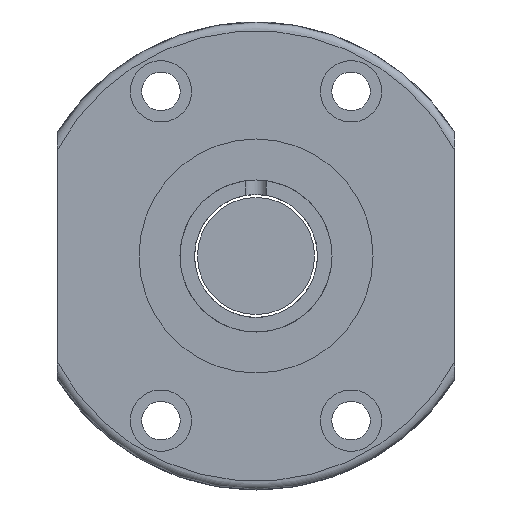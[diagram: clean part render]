
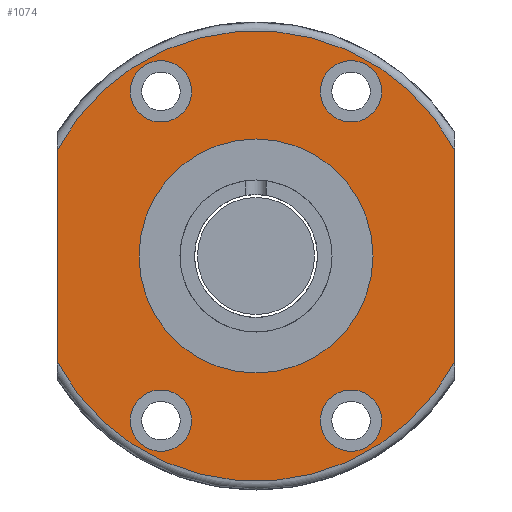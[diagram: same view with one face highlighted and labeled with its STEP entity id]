
A CAD part, left-side view. The second image highlights one B-rep face of the part: STEP entity #1074.
In plain terms, the highlighted planar face has unit normal (-1, 0, 0).
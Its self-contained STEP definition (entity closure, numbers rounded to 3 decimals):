
#3 = DIRECTION ( 'NONE',  ( 1., 0., 0. ) ) ;
#58 = FACE_BOUND ( 'NONE', #2557, .T. ) ;
#98 = DIRECTION ( 'NONE',  ( 0., 0.423, -0.906 ) ) ;
#109 = EDGE_LOOP ( 'NONE', ( #2319 ) ) ;
#111 = DIRECTION ( 'NONE',  ( -1., 0., 0. ) ) ;
#123 = VERTEX_POINT ( 'NONE', #472 ) ;
#143 = CIRCLE ( 'NONE', #2429, 38.5 ) ;
#188 = EDGE_CURVE ( 'NONE', #2036, #795, #2289, .T. ) ;
#195 = CIRCLE ( 'NONE', #518, 5.25 ) ;
#244 = DIRECTION ( 'NONE',  ( 0., -0.423, -0.906 ) ) ;
#251 = CARTESIAN_POINT ( 'NONE',  ( 147.535, 53.895, 0. ) ) ;
#258 = VECTOR ( 'NONE', #453, 1000. ) ;
#297 = VECTOR ( 'NONE', #2819, 1000. ) ;
#335 = FACE_BOUND ( 'NONE', #2151, .T. ) ;
#356 = DIRECTION ( 'NONE',  ( 0., 0.423, -0.906 ) ) ;
#380 = FACE_BOUND ( 'NONE', #1194, .T. ) ;
#420 = ORIENTED_EDGE ( 'NONE', *, *, #2837, .T. ) ;
#421 = CARTESIAN_POINT ( 'NONE',  ( 147.535, 67.895, 0. ) ) ;
#453 = DIRECTION ( 'NONE',  ( 0., 0., -1. ) ) ;
#472 = CARTESIAN_POINT ( 'NONE',  ( 147.535, 121.895, -18.062 ) ) ;
#518 = AXIS2_PLACEMENT_3D ( 'NONE', #767, #2072, #3045 ) ;
#539 = CARTESIAN_POINT ( 'NONE',  ( 147.535, 101.926, -32.904 ) ) ;
#620 = CARTESIAN_POINT ( 'NONE',  ( 147.535, 87.895, 0. ) ) ;
#625 = CIRCLE ( 'NONE', #780, 20. ) ;
#677 = AXIS2_PLACEMENT_3D ( 'NONE', #1858, #1872, #98 ) ;
#716 = ORIENTED_EDGE ( 'NONE', *, *, #3289, .T. ) ;
#767 = CARTESIAN_POINT ( 'NONE',  ( 147.535, 71.645, 28.146 ) ) ;
#779 = VERTEX_POINT ( 'NONE', #2524 ) ;
#780 = AXIS2_PLACEMENT_3D ( 'NONE', #2828, #1748, #1227 ) ;
#795 = VERTEX_POINT ( 'NONE', #1766 ) ;
#944 = DIRECTION ( 'NONE',  ( -1., 0., 0. ) ) ;
#1074 = ADVANCED_FACE ( 'NONE', ( #2621, #380, #58, #335, #1348, #2681 ), #1942, .F. ) ;
#1128 = LINE ( 'NONE', #3169, #258 ) ;
#1194 = EDGE_LOOP ( 'NONE', ( #1301 ) ) ;
#1227 = DIRECTION ( 'NONE',  ( 0., -1., 0. ) ) ;
#1296 = CARTESIAN_POINT ( 'NONE',  ( 147.535, 69.426, 23.388 ) ) ;
#1301 = ORIENTED_EDGE ( 'NONE', *, *, #3061, .T. ) ;
#1320 = ORIENTED_EDGE ( 'NONE', *, *, #1551, .F. ) ;
#1348 = FACE_BOUND ( 'NONE', #2593, .T. ) ;
#1370 = ORIENTED_EDGE ( 'NONE', *, *, #1427, .T. ) ;
#1427 = EDGE_CURVE ( 'NONE', #779, #123, #1128, .T. ) ;
#1487 = VERTEX_POINT ( 'NONE', #421 ) ;
#1518 = CARTESIAN_POINT ( 'NONE',  ( 147.535, 106.363, 23.388 ) ) ;
#1551 = EDGE_CURVE ( 'NONE', #1487, #1487, #625, .T. ) ;
#1680 = CIRCLE ( 'NONE', #677, 5.25 ) ;
#1748 = DIRECTION ( 'NONE',  ( -1., 0., 0. ) ) ;
#1762 = CARTESIAN_POINT ( 'NONE',  ( 147.535, 53.895, -18.062 ) ) ;
#1766 = CARTESIAN_POINT ( 'NONE',  ( 147.535, 53.895, 18.062 ) ) ;
#1837 = AXIS2_PLACEMENT_3D ( 'NONE', #3015, #3, #244 ) ;
#1858 = CARTESIAN_POINT ( 'NONE',  ( 147.535, 71.645, -28.146 ) ) ;
#1868 = ORIENTED_EDGE ( 'NONE', *, *, #188, .T. ) ;
#1872 = DIRECTION ( 'NONE',  ( 1., 0., 0. ) ) ;
#1942 = PLANE ( 'NONE',  #2759 ) ;
#1980 = EDGE_LOOP ( 'NONE', ( #3074, #1370, #716, #1868 ) ) ;
#2000 = CIRCLE ( 'NONE', #1837, 5.25 ) ;
#2036 = VERTEX_POINT ( 'NONE', #1762 ) ;
#2072 = DIRECTION ( 'NONE',  ( 1., 0., 0. ) ) ;
#2125 = DIRECTION ( 'NONE',  ( 1., 0., 0. ) ) ;
#2151 = EDGE_LOOP ( 'NONE', ( #420 ) ) ;
#2283 = AXIS2_PLACEMENT_3D ( 'NONE', #620, #111, #3125 ) ;
#2289 = LINE ( 'NONE', #251, #297 ) ;
#2290 = VERTEX_POINT ( 'NONE', #1296 ) ;
#2319 = ORIENTED_EDGE ( 'NONE', *, *, #2393, .T. ) ;
#2360 = CARTESIAN_POINT ( 'NONE',  ( 147.535, 104.145, 28.146 ) ) ;
#2393 = EDGE_CURVE ( 'NONE', #2290, #2290, #195, .T. ) ;
#2429 = AXIS2_PLACEMENT_3D ( 'NONE', #2474, #944, #2754 ) ;
#2468 = CARTESIAN_POINT ( 'NONE',  ( 147.535, 126.395, 0. ) ) ;
#2474 = CARTESIAN_POINT ( 'NONE',  ( 147.535, 87.895, 0. ) ) ;
#2524 = CARTESIAN_POINT ( 'NONE',  ( 147.535, 121.895, 18.062 ) ) ;
#2557 = EDGE_LOOP ( 'NONE', ( #1320 ) ) ;
#2572 = VERTEX_POINT ( 'NONE', #1518 ) ;
#2593 = EDGE_LOOP ( 'NONE', ( #3156 ) ) ;
#2597 = EDGE_CURVE ( 'NONE', #795, #779, #3299, .T. ) ;
#2613 = EDGE_CURVE ( 'NONE', #2572, #2572, #3124, .T. ) ;
#2621 = FACE_BOUND ( 'NONE', #109, .T. ) ;
#2644 = AXIS2_PLACEMENT_3D ( 'NONE', #2360, #2125, #356 ) ;
#2681 = FACE_OUTER_BOUND ( 'NONE', #1980, .T. ) ;
#2754 = DIRECTION ( 'NONE',  ( 0., -1., 0. ) ) ;
#2759 = AXIS2_PLACEMENT_3D ( 'NONE', #2468, #3253, #2965 ) ;
#2802 = VERTEX_POINT ( 'NONE', #3021 ) ;
#2819 = DIRECTION ( 'NONE',  ( 0., 0., 1. ) ) ;
#2820 = VERTEX_POINT ( 'NONE', #539 ) ;
#2828 = CARTESIAN_POINT ( 'NONE',  ( 147.535, 87.895, 0. ) ) ;
#2837 = EDGE_CURVE ( 'NONE', #2820, #2820, #2000, .T. ) ;
#2965 = DIRECTION ( 'NONE',  ( 0., 1., 0. ) ) ;
#3015 = CARTESIAN_POINT ( 'NONE',  ( 147.535, 104.145, -28.146 ) ) ;
#3021 = CARTESIAN_POINT ( 'NONE',  ( 147.535, 73.863, -32.904 ) ) ;
#3045 = DIRECTION ( 'NONE',  ( 0., -0.423, -0.906 ) ) ;
#3061 = EDGE_CURVE ( 'NONE', #2802, #2802, #1680, .T. ) ;
#3074 = ORIENTED_EDGE ( 'NONE', *, *, #2597, .T. ) ;
#3124 = CIRCLE ( 'NONE', #2644, 5.25 ) ;
#3125 = DIRECTION ( 'NONE',  ( 0., -1., 0. ) ) ;
#3156 = ORIENTED_EDGE ( 'NONE', *, *, #2613, .T. ) ;
#3169 = CARTESIAN_POINT ( 'NONE',  ( 147.535, 121.895, 0. ) ) ;
#3253 = DIRECTION ( 'NONE',  ( 1., 0., 0. ) ) ;
#3289 = EDGE_CURVE ( 'NONE', #123, #2036, #143, .T. ) ;
#3299 = CIRCLE ( 'NONE', #2283, 38.5 ) ;
